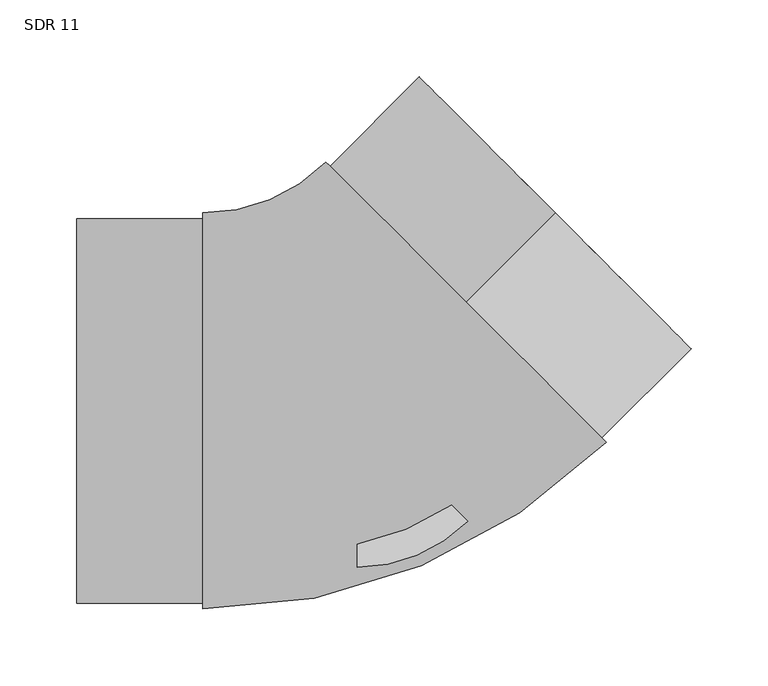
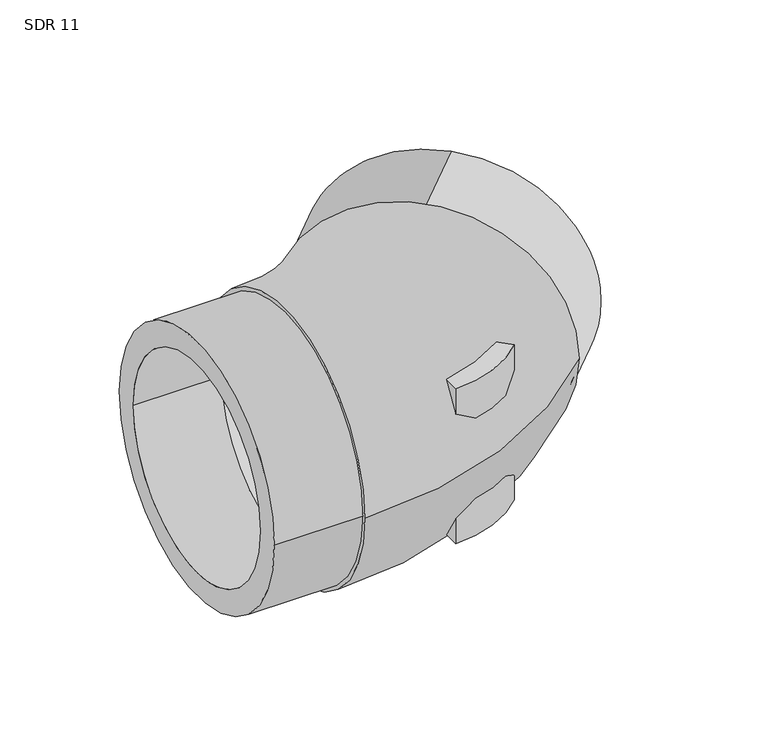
"""IFC4 building model written with IfcOpenShell, lengths in millimetres: pipe fitting geometry, Aquatherm - Elbow BW Molded : SDR 11."""

from ifc_helpers import new_model, si_unit, point, frame, frame_2d, origin, origin_with_axes, origin_2d, place, context, project, spatial, polyline, circle_curve, ellipse_curve, trimmed, segment, composite_curve, outline, extrude, source, transform, mapped, element, save
from ifc_brep_helpers import plane_surface, revolved_surface, advanced_brep


def sdr_11_c3f95d2b(model_context):
    return source(origin(), model_context, "Body", "SolidModel", [
        extrude(outline(composite_curve([segment(polyline([(0.0, -101.6), (0.0, 0.0), (71.8455185, -71.8385793)]), True, "CONTINUOUS"), segment(trimmed(circle_curve(origin_2d(), 101.6), [point((71.8455185, -71.8385793))], [point((0.0, -101.6))], False, "CARTESIAN"), True, "CONTINUOUS")], self_intersect=False)), frame((0.0, 0.0, -76.2), z_axis=(0.0, 0.0, 1.0), x_axis=(1.0, 0.0, 0.0)), (0.0, 0.0, 1.0), 76.2),
        extrude(outline(composite_curve([segment(trimmed(circle_curve(origin_2d(), 101.6), [point((71.8455185, -71.8385793))], [point((0.0, -101.6))], False, "CARTESIAN"), True, "CONTINUOUS"), segment(polyline([(0.0, -101.6), (0.0, 0.0), (71.8455185, -71.8385793)]), True, "CONTINUOUS")], self_intersect=False)), origin_with_axes(), (0.0, 0.0, 1.0), 76.2),
        extrude(outline(composite_curve([segment(trimmed(circle_curve(frame_2d((0.0, -124.968)), 124.968), [point((0.0, -249.936))], [point((0.0, 0.0))], False, "CARTESIAN"), True, "CONTINUOUS"), segment(trimmed(circle_curve(frame_2d((0.0, -124.968)), 124.968), [point((0.0, 0.0))], [point((0.0, -249.936))], False, "CARTESIAN"), True, "CONTINUOUS")], self_intersect=False), holes=[composite_curve([segment(trimmed(circle_curve(frame_2d((0.0, -124.968)), 102.2465455), [point((0.0, -227.2145455))], [point((0.0, -22.7214545))], True, "CARTESIAN"), True, "CONTINUOUS"), segment(trimmed(circle_curve(frame_2d((0.0, -124.968)), 102.2465455), [point((0.0, -22.7214545))], [point((0.0, -227.2145455))], True, "CARTESIAN"), True, "CONTINUOUS")], self_intersect=False)]), frame((70.8238594, 70.8307005, 124.968), z_axis=(0.7070726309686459, 0.70714092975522, 0.0), x_axis=(-0.70714092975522, 0.7070726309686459, 0.0)), (0.0, 0.0, 1.0), 81.9531),
        extrude(outline(composite_curve([segment(trimmed(circle_curve(frame_2d((-0.1496481, 0.0)), 124.968), [point((124.8183519, 0.0))], [point((-125.1176481, 0.0))], False, "CARTESIAN"), True, "CONTINUOUS"), segment(trimmed(circle_curve(frame_2d((-0.1496481, 0.0)), 124.968), [point((-125.1176481, 0.0))], [point((124.8183519, 0.0))], False, "CARTESIAN"), True, "CONTINUOUS")], self_intersect=False), holes=[composite_curve([segment(trimmed(circle_curve(origin_2d(), 102.2465455), [point((102.2465455, 0.0))], [point((-102.2465455, 0.0))], True, "CARTESIAN"), True, "CONTINUOUS"), segment(trimmed(circle_curve(origin_2d(), 102.2465455), [point((-102.2465455, 0.0))], [point((102.2465455, 0.0))], True, "CARTESIAN"), True, "CONTINUOUS")], self_intersect=False)]), frame((-182.118, 0.0, 0.0), z_axis=(1.0, 0.0, 0.0), x_axis=(0.0, 1.0, 0.0)), (0.0, 0.0, 1.0), 81.9531),
        advanced_brep(
        [(-100.1649, -128.71704, 0.0), (-100.1649, 128.71704, 0.0), (-100.1649, -102.2465455, 0.0), (-100.1649, 102.2465455, 0.0), (161.8449467, -20.1815956, 0.0), (-20.197228, 161.8429966, 0.0), (143.1265766, -1.4650334, 0.0), (-1.4788578, 143.1264344, 0.0)],
        [
            (0, 1, circle_curve(frame((-100.1649, 0.0, 0.0), z_axis=(-1.0, 0.0, 0.0), x_axis=(0.0, 1.0, 0.0)), 128.71704)),
            (1, 0, circle_curve(frame((-100.1649, 0.0, 0.0), z_axis=(-1.0, 0.0, 0.0), x_axis=(0.0, 1.0, 0.0)), 128.71704)),
            (2, 3, circle_curve(frame((-100.1649, 0.0, 0.0), z_axis=(1.0, 0.0, 0.0), x_axis=(0.0, 1.0, 0.0)), 102.2465455)),
            (3, 2, circle_curve(frame((-100.1649, 0.0, 0.0), z_axis=(1.0, 0.0, 0.0), x_axis=(0.0, 1.0, 0.0)), 102.2465455)),
            (4, 5, circle_curve(frame((70.8238594, 70.8307005, 0.0), z_axis=(0.707072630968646, 0.7071409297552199, 0.0), x_axis=(-0.7071409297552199, 0.707072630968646, 0.0)), 128.71704)),
            (5, 4, circle_curve(frame((70.8238594, 70.8307005, 0.0), z_axis=(0.707072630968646, 0.7071409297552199, 0.0), x_axis=(-0.7071409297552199, 0.707072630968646, 0.0)), 128.71704)),
            (6, 7, circle_curve(frame((70.8238594, 70.8307005, 0.0), z_axis=(-0.707072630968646, -0.7071409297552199, 0.0), x_axis=(-0.7071409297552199, 0.707072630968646, 0.0)), 102.2465455)),
            (7, 6, circle_curve(frame((70.8238594, 70.8307005, 0.0), z_axis=(-0.707072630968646, -0.7071409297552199, 0.0), x_axis=(-0.7071409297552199, 0.707072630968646, 0.0)), 102.2465455)),
            (5, 1, circle_curve(frame((-100.1649, 241.802945, 0.0), z_axis=(0.0, 0.0, -1.0), x_axis=(0.0, -1.0, 0.0)), 113.085905)),
            (0, 4, circle_curve(frame((-100.1649, 241.802945, 0.0), z_axis=(0.0, 0.0, 1.0), x_axis=(0.0, -1.0, 0.0)), 370.519985)),
            (7, 3, circle_curve(frame((-100.1649, 241.802945, 0.0), z_axis=(0.0, 0.0, -1.0), x_axis=(0.0, -1.0, 0.0)), 139.5563996)),
            (2, 6, circle_curve(frame((-100.1649, 241.802945, 0.0), z_axis=(0.0, 0.0, 1.0), x_axis=(0.0, -1.0, 0.0)), 344.0494905)),
        ],
        [
            plane_surface(frame((-100.1649, 0.0, 0.0), z_axis=(-1.0, 0.0, 0.0), x_axis=(0.0, 0.0, 1.0))),
            plane_surface(frame((70.8238594, 70.8307005, 0.0), z_axis=(0.7070726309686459, 0.70714092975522, 0.0), x_axis=(0.0, 0.0, 1.0))),
            revolved_surface(trimmed(ellipse_curve(frame((-100.1649, 0.0, 0.0), z_axis=(-1.0, 0.0, 0.0), x_axis=(0.0, 1.0, 0.0)), 128.71704, 128.71704), [point((-100.1649, -128.71704, 0.0))], [point((-100.1649, 128.71704, 0.0))], True, "CARTESIAN"), (-100.1649, 241.802945, 0.0), (0.0, 0.0, 1.0)),
            revolved_surface(trimmed(ellipse_curve(frame((-100.1649, 0.0, 0.0), z_axis=(-1.0, 0.0, 0.0), x_axis=(0.0, 1.0, 0.0)), 128.71704, 128.71704), [point((-100.1649, 128.71704, 0.0))], [point((-100.1649, -128.71704, 0.0))], True, "CARTESIAN"), (-100.1649, 241.802945, 0.0), (0.0, 0.0, 1.0)),
            revolved_surface(trimmed(ellipse_curve(frame((-100.1649, 0.0, 0.0), z_axis=(1.0, 0.0, 0.0), x_axis=(0.0, 1.0, 0.0)), 102.2465455, 102.2465455), [point((-100.1649, -102.2465455, 0.0))], [point((-100.1649, 102.2465455, 0.0))], True, "CARTESIAN"), (-100.1649, 241.802945, 0.0), (0.0, 0.0, 1.0)),
            revolved_surface(trimmed(ellipse_curve(frame((-100.1649, 0.0, 0.0), z_axis=(1.0, 0.0, 0.0), x_axis=(0.0, 1.0, 0.0)), 102.2465455, 102.2465455), [point((-100.1649, 102.2465455, 0.0))], [point((-100.1649, -102.2465455, 0.0))], True, "CARTESIAN"), (-100.1649, 241.802945, 0.0), (0.0, 0.0, 1.0)),
        ],
        [
            (0, [[1, 2], [3, 4]]),
            (1, [[5, 6], [7, 8]]),
            (2, [[9, -1, 10, -6]]),
            (3, [[-10, -2, -9, -5]]),
            (4, [[11, -3, 12, -8]]),
            (5, [[-12, -4, -11, -7]]),
        ],
    ),
    ])


if __name__ == "__main__":
    model = new_model("IFC4")
    model_context = context("Model", 3, world=origin())
    ifc_project = project(units=[si_unit("LENGTHUNIT", "METRE", prefix="MILLI")], contexts=[model_context])
    site = spatial("IfcSite", under=ifc_project)
    building = spatial("IfcBuilding", under=site)
    placement = place(None, origin())
    sdr_11_shape = sdr_11_c3f95d2b(model_context)
    element("IfcPipeFitting", 1, ObjectType="Aquatherm - Elbow BW Molded : SDR 11", at=placement, inside=building, context=model_context, shape_type="MappedRepresentation", body=[
        mapped(sdr_11_shape, transform((0.0, 0.0, 0.0), x_axis=(1.0, 0.0, 0.0), y_axis=(0.0, 1.0, 0.0), z_axis=(0.0, 0.0, 1.0))),
    ])
    save(model, "model.ifc")
